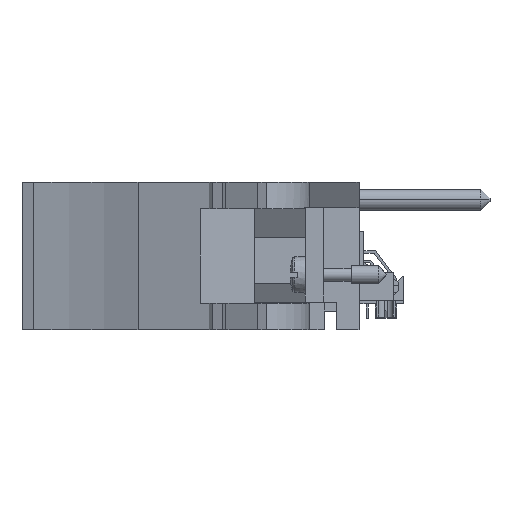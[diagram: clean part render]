
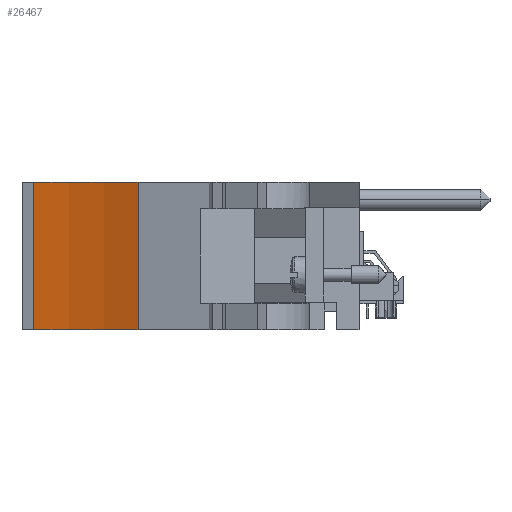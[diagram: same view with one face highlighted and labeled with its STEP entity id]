
A CAD part, front view. The second image highlights one B-rep face of the part: STEP entity #26467.
In plain terms, the highlighted cylindrical face has radius 51.46 mm (diameter 102.919 mm), a partial arc.
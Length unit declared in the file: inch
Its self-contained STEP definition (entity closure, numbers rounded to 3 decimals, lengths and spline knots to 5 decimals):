
#1032=CARTESIAN_POINT('',(-1.97633,-5.95079,-0.093));
#1033=DIRECTION('',(0.,0.,1.));
#1034=DIRECTION('',(0.435,0.9,0.));
#1035=AXIS2_PLACEMENT_3D('',#1032,#1033,#1034);
#1237=CARTESIAN_POINT('',(-1.97633,-5.95079,0.695));
#1238=DIRECTION('',(0.,0.,1.));
#1239=DIRECTION('',(0.435,0.9,0.));
#1240=AXIS2_PLACEMENT_3D('',#1237,#1238,#1239);
#9026=DIRECTION('',(0.,0.,1.));
#9027=VECTOR('',#9026,0.788);
#9028=CARTESIAN_POINT('',(-1.09503,-4.12655,-0.093));
#9029=LINE('',#9028,#9027);
#9042=DIRECTION('',(0.,0.,1.));
#9043=VECTOR('',#9042,0.788);
#9044=CARTESIAN_POINT('',(-1.653,-3.95079,-0.093));
#9045=LINE('',#9044,#9043);
#12698=CARTESIAN_POINT('',(-1.09503,-4.12655,-0.093));
#12699=CARTESIAN_POINT('',(-1.653,-3.95079,-0.093));
#12700=VERTEX_POINT('',#12698);
#12701=VERTEX_POINT('',#12699);
#12702=CARTESIAN_POINT('',(-1.09503,-4.12655,0.695));
#12703=CARTESIAN_POINT('',(-1.653,-3.95079,0.695));
#12704=VERTEX_POINT('',#12702);
#12705=VERTEX_POINT('',#12703);
#26455=CARTESIAN_POINT('',(-1.97633,-5.95079,0.695));
#26456=DIRECTION('',(0.,0.,1.));
#26457=DIRECTION('',(0.,1.,0.));
#26458=AXIS2_PLACEMENT_3D('',#26455,#26456,#26457);
#26459=CYLINDRICAL_SURFACE('',#26458,2.02597);
#26460=ORIENTED_EDGE('',*,*,#14409,.T.);
#26462=ORIENTED_EDGE('',*,*,#26461,.T.);
#26463=ORIENTED_EDGE('',*,*,#14533,.F.);
#26464=ORIENTED_EDGE('',*,*,#26440,.F.);
#26465=EDGE_LOOP('',(#26460,#26462,#26463,#26464));
#26466=FACE_OUTER_BOUND('',#26465,.F.);
#26467=ADVANCED_FACE('',(#26466),#26459,.F.);
#1036=CIRCLE('',#1035,2.02597);
#1241=CIRCLE('',#1240,2.02597);
#14409=EDGE_CURVE('',#12700,#12701,#1036,.T.);
#14533=EDGE_CURVE('',#12704,#12705,#1241,.T.);
#26440=EDGE_CURVE('',#12700,#12704,#9029,.T.);
#26461=EDGE_CURVE('',#12701,#12705,#9045,.T.);
